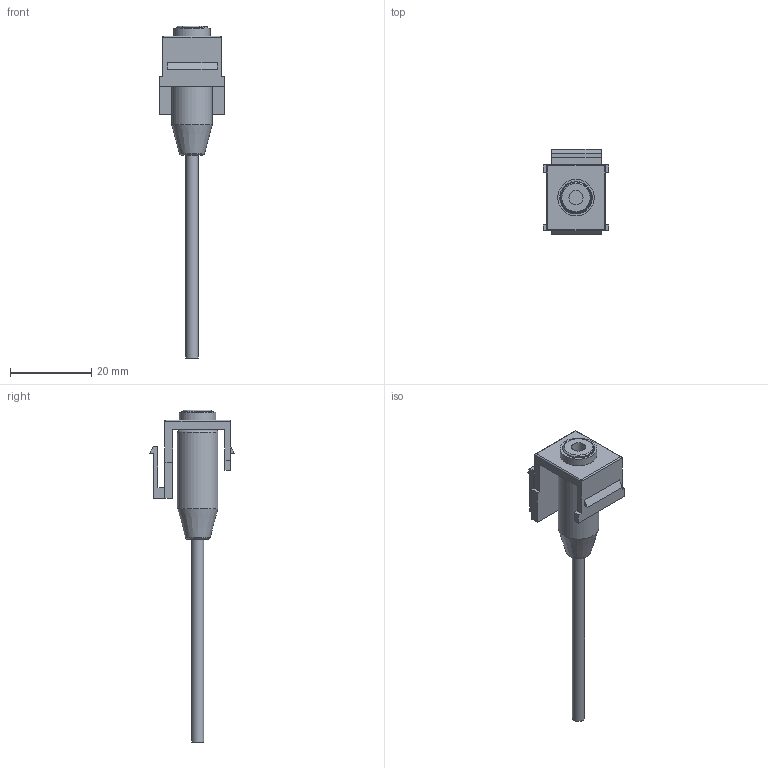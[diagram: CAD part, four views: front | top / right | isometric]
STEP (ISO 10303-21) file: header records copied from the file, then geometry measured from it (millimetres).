
FILE_DESCRIPTION(('FreeCAD Model'),'2;1');
FILE_NAME('Open CASCADE Shape Model','2026-06-17T13:44:41',(''),(''), 'Open CASCADE STEP processor 7.8','FreeCAD','Unknown');
FILE_SCHEMA(('AUTOMOTIVE_DESIGN { 1 0 10303 214 1 1 1 1 }'));
Length unit declared in the file: millimetre
Products named in the file (4): Unnamed; FW-405-35PHJ-FF-20CM_1; SICC-35MFTF-ST-200-S; FW-405-35PHJ-FF-20CM_R
Assembly tree (3 placements, depth 2):
  Unnamed
    FW-405-35PHJ-FF-20CM_1
    SICC-35MFTF-ST-200-S
    FW-405-35PHJ-FF-20CM_R
Bounding box: 16.2 x 21 x 81.8 mm (x, y, z)
Volume: 3834.6 mm3; surface area: 3626.8 mm2
Topology: 3 solids, 3 shells, 86 faces, 199 edges, 123 vertices
Faces by surface type: plane 37, bspline 31, cylinder 11, cone 5, torus 2
Full cylindrical faces by diameter (mm): 3 x1, 3.5 x1, 7.8 x1, 8.1 x1, 9 x1, 10 x1
Entity records: 5621 total; most frequent: CARTESIAN_POINT 3825, ORIENTED_EDGE 398, DIRECTION 267, EDGE_CURVE 199, VERTEX_POINT 123, LINE 95, VECTOR 95, FACE_BOUND 94
